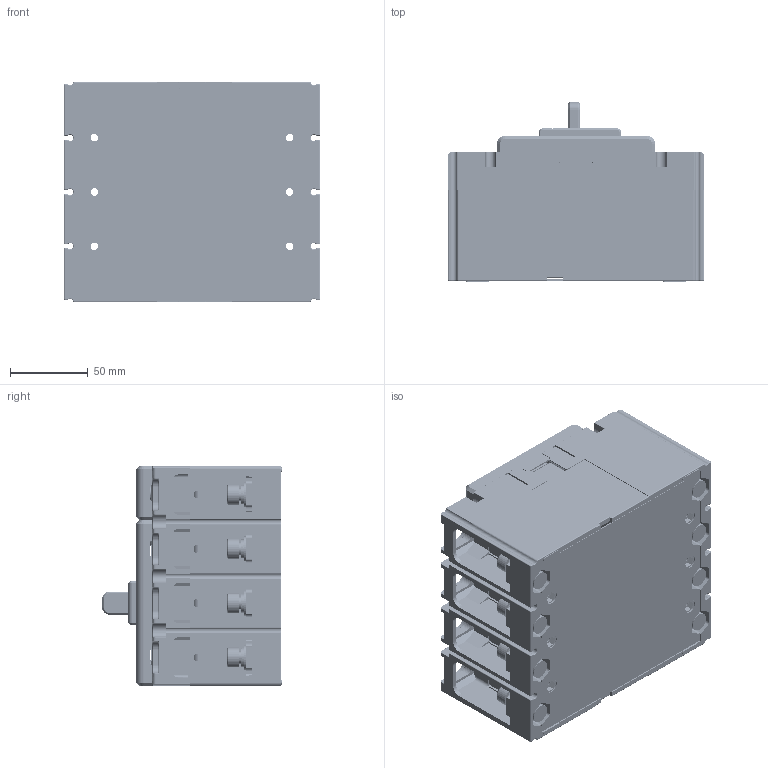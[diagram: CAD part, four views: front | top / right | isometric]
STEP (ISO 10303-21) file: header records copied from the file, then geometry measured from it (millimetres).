
FILE_DESCRIPTION((''),'2;1');
FILE_NAME('CDM3V-250F4P_ASM','2021-06-10T',('yan.shen'),(''),'PRO/ENGINEER BY PARAMETRIC TECHNOLOGY CORPORATION, 2015440','PRO/ENGINEER BY PARAMETRIC TECHNOLOGY CORPORATION, 2015440','');
FILE_SCHEMA(('CONFIG_CONTROL_DESIGN'));
Products named in the file (29): JZ-5024044600; GB_T809-M3X12; 5024044600_ASM; 8940007200; 8551033100; 8585064400; 8253076600; 5253029200_ASM; 8751002100; 8750029700; ZG-5315050100; GB_T809-M3X8; 5315050100_ASM; 8282018100_AF1; 8253077300; 5315051300_ASM; 8315095900; 8315096000; 7010100305R01_GB_T823_M3X10; 7090300201_GB_T93_3; GB_T97_4_3; 5850007700_ASM; 5315051500_ASM; 8742102800; GB_T70_1-M8X20; 7090200704_GB_T97_1_8; 7090370701K_GB_T93_8; 5850004100_ASM; CDM3V-250F4P_ASM
Assembly tree (73 placements, depth 5):
  CDM3V-250F4P_ASM
    5024044600_ASM
      JZ-5024044600
      GB_T809-M3X12  x10
    8940007200  x8
    8551033100  x4
    8585064400  x4
    5253029200_ASM
      8253076600
    8751002100  x4
    8750029700  x4
    5315051500_ASM
      5315051300_ASM
        5315050100_ASM
          ZG-5315050100
          GB_T809-M3X8  x6
        8282018100_AF1
        8253077300
      8315095900
      8315096000
      5850007700_ASM  x6
        7010100305R01_GB_T823_M3X10
        7090300201_GB_T93_3
        GB_T97_4_3
    8742102800
    5850004100_ASM  x8
      GB_T70_1-M8X20
      7090200704_GB_T97_1_8
      7090370701K_GB_T93_8
Bounding box: 165 x 116 x 142 mm (x, y, z)
Volume: 708849.5 mm3; surface area: 481287 mm2
Topology: 90 solids, 136 shells, 9596 faces, 24608 edges, 15406 vertices
Faces by surface type: plane 4575, cylinder 3307, torus 724, cone 401, sphere 245, bspline 194, extrusion 150
Entity records: 275099 total; most frequent: CARTESIAN_POINT 75060, ORIENTED_EDGE 41922, DIRECTION 41530, EDGE_CURVE 20977, AXIS2_PLACEMENT_3D 13862, VECTOR 13806, LINE 13656, VERTEX_POINT 13135
